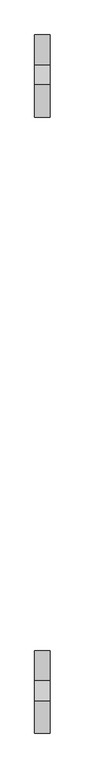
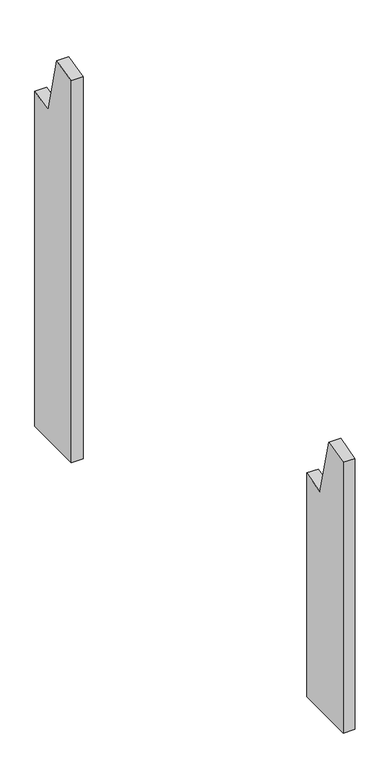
"""IFC4 building model written with IfcOpenShell, lengths in millimetres: proxy geometry, Modelos genéricos 117 : Modelos genéricos 5."""

from ifc_helpers import new_model, si_unit, frame, origin, place, context, project, spatial, polyline, outline, extrude, source, transform, mapped, element, save


def generic_models_3f94ce6d(model_context):
    return source(origin(), model_context, "Body", "SweptSolid", [
        extrude(outline(polyline([(628.6238165, 3000.0), (468.6238165, 3000.0), (468.6238165, 4023.0972283), (531.6985696, 4038.8235305), (570.4060729, 3883.5762143), (628.6238165, 3898.0915281), (628.6238165, 3000.0)])), frame((44293.4472467, 0.0, 0.0), z_axis=(1.0, 0.0, 0.0), x_axis=(0.0, 1.0, 0.0)), (0.0, 0.0, 1.0), 30.0),
        extrude(outline(polyline([(-566.3761835, 3000.0), (-726.3761835, 3000.0), (-726.3761835, 3725.1502649), (-663.3014304, 3740.8765671), (-624.5939271, 3585.6292509), (-566.3761835, 3600.1445647), (-566.3761835, 3000.0)])), frame((44293.4472467, 0.0, 0.0), z_axis=(1.0, 0.0, 0.0), x_axis=(0.0, 1.0, 0.0)), (0.0, 0.0, 1.0), 30.0),
    ])


if __name__ == "__main__":
    model = new_model("IFC4")
    model_context = context("Model", 3, world=origin())
    ifc_project = project(units=[si_unit("LENGTHUNIT", "METRE", prefix="MILLI")], contexts=[model_context])
    site = spatial("IfcSite", under=ifc_project)
    building = spatial("IfcBuilding", under=site)
    placement = place(None, origin())
    generic_models_shape = generic_models_3f94ce6d(model_context)
    element("IfcBuildingElementProxy", 1, Name="Modelos genéricos 117 : Modelos genéricos 5", ObjectType="Modelos genéricos 117 : Modelos genéricos 5", at=placement, inside=building, context=model_context, shape_type="MappedRepresentation", body=[
        mapped(generic_models_shape, transform((0.0, 0.0, 0.0), x_axis=(1.0, 0.0, 0.0), y_axis=(0.0, 1.0, 0.0), z_axis=(0.0, 0.0, 1.0))),
    ])
    save(model, "model.ifc")
